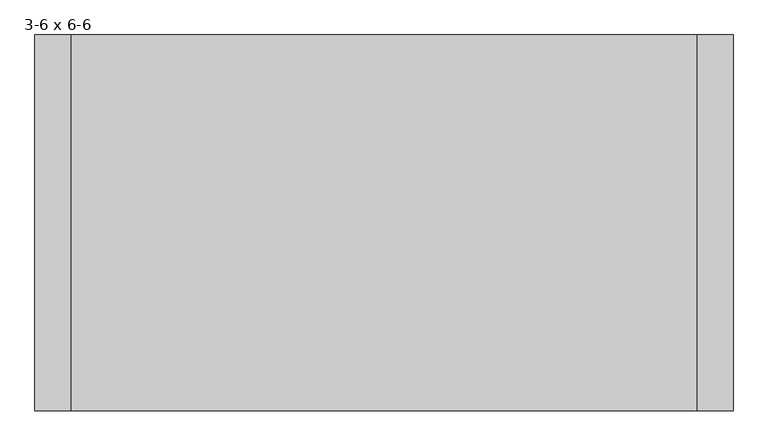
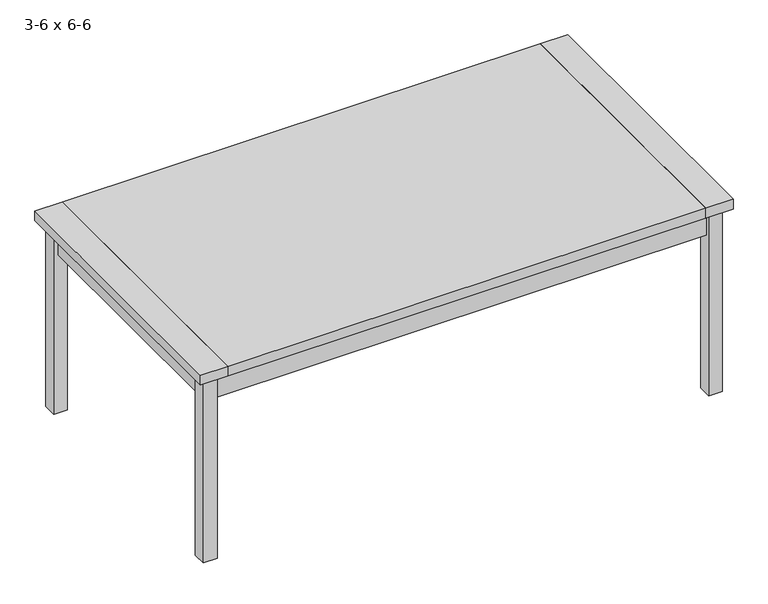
"""IFC4 building model written with IfcOpenShell, lengths in millimetres: furniture geometry, mesa con 8 sillas : 3-6 x 6-6."""

from ifc_helpers import new_model, si_unit, frame, origin, origin_with_axes, place, context, project, spatial, polyline, outline, extrude, source, transform, mapped, element, save


def furniture_3_6_x_6_6_98a704b0(model_context):
    return source(origin(), model_context, "Body", "SweptSolid", [
        extrude(outline(polyline([(889.0, -533.4), (889.0, 533.4), (990.6, 533.4), (990.6, -533.4), (889.0, -533.4)])), frame((0.0, 0.0, 723.9), z_axis=(0.0, 0.0, 1.0), x_axis=(1.0, 0.0, 0.0)), (0.0, 0.0, 1.0), 38.1),
        extrude(outline(polyline([(-889.0, -533.4), (-990.6, -533.4), (-990.6, 533.4), (-889.0, 533.4), (-889.0, -533.4)])), frame((0.0, 0.0, 723.9), z_axis=(0.0, 0.0, 1.0), x_axis=(1.0, 0.0, 0.0)), (0.0, 0.0, 1.0), 38.1),
        extrude(outline(polyline([(914.4, 473.075), (-914.4, 473.075), (-914.4, 492.125), (914.4, 492.125), (914.4, 473.075)])), frame((0.0, 0.0, 622.3), z_axis=(0.0, 0.0, 1.0), x_axis=(1.0, 0.0, 0.0)), (0.0, 0.0, 1.0), 101.6),
        extrude(outline(polyline([(889.0, -533.4), (-889.0, -533.4), (-889.0, 533.4), (889.0, 533.4), (889.0, -533.4)])), frame((0.0, 0.0, 723.9), z_axis=(0.0, 0.0, 1.0), x_axis=(1.0, 0.0, 0.0)), (0.0, 0.0, 1.0), 38.1),
        extrude(outline(polyline([(-930.275, 457.2), (-930.275, -457.2), (-949.325, -457.2), (-949.325, 457.2), (-930.275, 457.2)])), frame((0.0, 0.0, 622.3), z_axis=(0.0, 0.0, 1.0), x_axis=(1.0, 0.0, 0.0)), (0.0, 0.0, 1.0), 101.6),
        extrude(outline(polyline([(930.275, 457.2), (949.325, 457.2), (949.325, -457.2), (930.275, -457.2), (930.275, 457.2)])), frame((0.0, 0.0, 622.3), z_axis=(0.0, 0.0, 1.0), x_axis=(1.0, 0.0, 0.0)), (0.0, 0.0, 1.0), 101.6),
        extrude(outline(polyline([(914.4, -473.075), (914.4, -492.125), (-914.4, -492.125), (-914.4, -473.075), (914.4, -473.075)])), frame((0.0, 0.0, 622.3), z_axis=(0.0, 0.0, 1.0), x_axis=(1.0, 0.0, 0.0)), (0.0, 0.0, 1.0), 101.6),
        extrude(outline(polyline([(-914.4, 508.0), (-914.4, 457.2), (-965.2, 457.2), (-965.2, 508.0), (-914.4, 508.0)])), origin_with_axes(), (0.0, 0.0, 1.0), 723.9),
        extrude(outline(polyline([(914.4, 508.0), (965.2, 508.0), (965.2, 457.2), (914.4, 457.2), (914.4, 508.0)])), origin_with_axes(), (0.0, 0.0, 1.0), 723.9),
        extrude(outline(polyline([(914.4, -508.0), (914.4, -457.2), (965.2, -457.2), (965.2, -508.0), (914.4, -508.0)])), origin_with_axes(), (0.0, 0.0, 1.0), 723.9),
        extrude(outline(polyline([(-914.4, -508.0), (-965.2, -508.0), (-965.2, -457.2), (-914.4, -457.2), (-914.4, -508.0)])), origin_with_axes(), (0.0, 0.0, 1.0), 723.9),
    ])


if __name__ == "__main__":
    model = new_model("IFC4")
    model_context = context("Model", 3, world=origin())
    ifc_project = project(units=[si_unit("LENGTHUNIT", "METRE", prefix="MILLI")], contexts=[model_context])
    site = spatial("IfcSite", under=ifc_project)
    building = spatial("IfcBuilding", under=site)
    placement = place(None, origin())
    furniture_3_6_x_6_6_shape = furniture_3_6_x_6_6_98a704b0(model_context)
    element("IfcFurniture", 1, ObjectType="mesa con 8 sillas : 3-6 x 6-6", at=placement, inside=building, context=model_context, shape_type="MappedRepresentation", body=[
        mapped(furniture_3_6_x_6_6_shape, transform((0.0, 0.0, 0.0), x_axis=(1.0, 0.0, 0.0), y_axis=(0.0, 1.0, 0.0), z_axis=(0.0, 0.0, 1.0))),
    ])
    save(model, "model.ifc")
